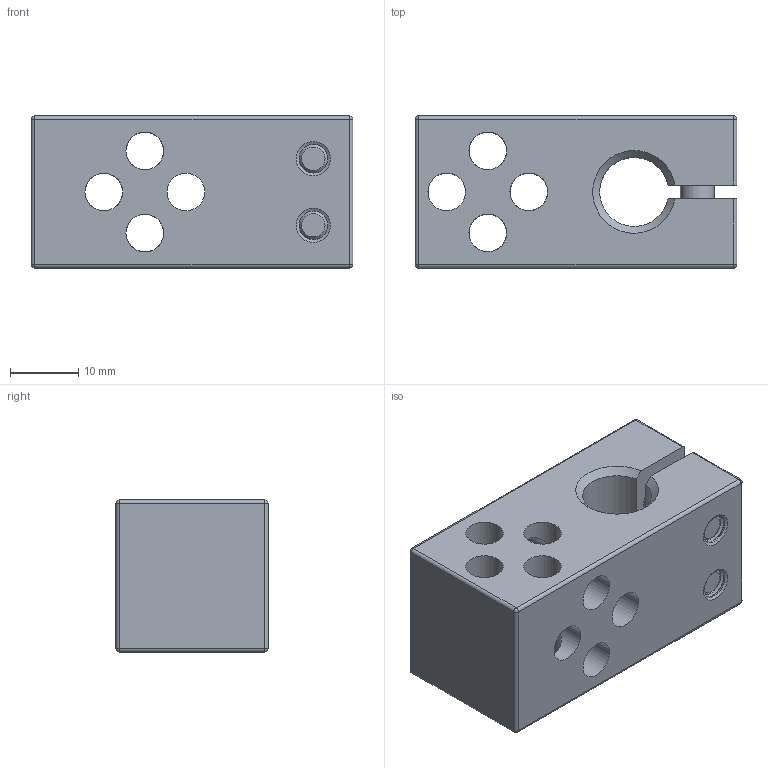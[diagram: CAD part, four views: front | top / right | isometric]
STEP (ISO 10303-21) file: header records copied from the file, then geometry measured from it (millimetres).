
FILE_DESCRIPTION (( 'STEP AP214' ), '1' );
FILE_NAME ('781.STEP', '2022-11-29T18:17:02', ( '' ), ( '' ), 'SwSTEP 2.0', 'SolidWorks 2022', '' );
FILE_SCHEMA (( 'AUTOMOTIVE_DESIGN' ));
Length unit declared in the file: millimetre
Products named in the file (4): 781 (Multi Purpose Block)_781; Socket Head Cap Screws_855; 781; Washers_865
Assembly tree (5 placements, depth 2):
  781
    781 (Multi Purpose Block)_781
    Socket Head Cap Screws_855  x2
    Washers_865  x2
Bounding box: 47 x 22.23 x 22.23 mm (x, y, z)
Volume: 17040.4 mm3; surface area: 10172.2 mm2
Topology: 5 solids, 5 shells, 206 faces, 452 edges, 244 vertices
Faces by surface type: cylinder 93, cone 60, plane 45, sphere 8
Full cylindrical faces by diameter (mm): 4.2 x24, 4.201 x2, 5 x26, 5.3 x2, 5.5 x18, 8.6 x2, 9 x4
Entity records: 4338 total; most frequent: DIRECTION 792, CARTESIAN_POINT 710, ORIENTED_EDGE 512, AXIS2_PLACEMENT_3D 366, EDGE_LOOP 340, FACE_OUTER_BOUND 256, EDGE_CURVE 256, VERTEX_POINT 204
